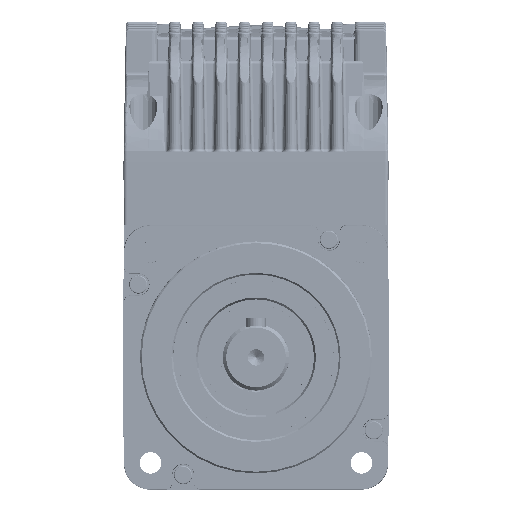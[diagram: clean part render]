
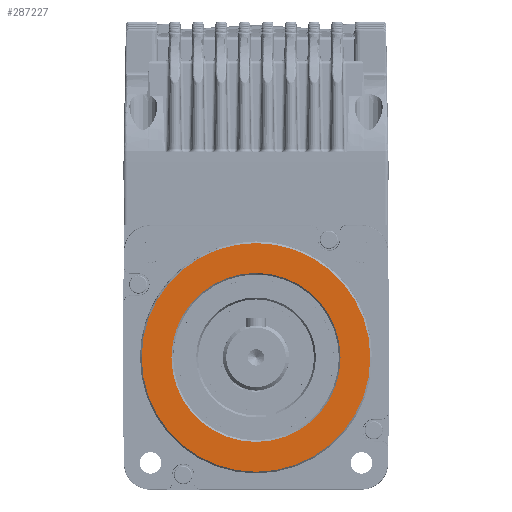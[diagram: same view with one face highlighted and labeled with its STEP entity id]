
A CAD part, front view. The second image highlights one B-rep face of the part: STEP entity #287227.
In plain terms, the highlighted planar face has unit normal (0, -1, 0).
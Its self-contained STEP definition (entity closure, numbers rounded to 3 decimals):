
#287002=AXIS2_PLACEMENT_3D('Circle Axis2P3D',#287000,#287001,$) ;
#287011=AXIS2_PLACEMENT_3D('Circle Axis2P3D',#287009,#287010,$) ;
#287049=AXIS2_PLACEMENT_3D('Circle Axis2P3D',#287047,#287048,$) ;
#287056=AXIS2_PLACEMENT_3D('Circle Axis2P3D',#287054,#287055,$) ;
#287185=AXIS2_PLACEMENT_3D('Plane Axis2P3D',#287182,#287183,#287184) ;
#287189=AXIS2_PLACEMENT_3D('Circle Axis2P3D',#287187,#287188,$) ;
#287198=AXIS2_PLACEMENT_3D('Circle Axis2P3D',#287196,#287197,$) ;
#287205=AXIS2_PLACEMENT_3D('Circle Axis2P3D',#287203,#287204,$) ;
#287212=AXIS2_PLACEMENT_3D('Circle Axis2P3D',#287210,#287211,$) ;
#287000=CARTESIAN_POINT('Axis2P3D Location',(0.,-1.36,0.)) ;
#287004=CARTESIAN_POINT('Vertex',(25.5,-1.36,0.)) ;
#287006=CARTESIAN_POINT('Vertex',(0.,-1.36,-25.5)) ;
#287009=CARTESIAN_POINT('Axis2P3D Location',(0.,-1.36,0.)) ;
#287013=CARTESIAN_POINT('Vertex',(0.,-1.36,25.5)) ;
#287047=CARTESIAN_POINT('Axis2P3D Location',(0.,-1.36,0.)) ;
#287051=CARTESIAN_POINT('Vertex',(-25.5,-1.36,0.)) ;
#287054=CARTESIAN_POINT('Axis2P3D Location',(0.,-1.36,0.)) ;
#287182=CARTESIAN_POINT('Axis2P3D Location',(0.,-1.36,25.)) ;
#287187=CARTESIAN_POINT('Axis2P3D Location',(0.,-1.36,0.)) ;
#287191=CARTESIAN_POINT('Vertex',(34.5,-1.36,0.)) ;
#287193=CARTESIAN_POINT('Vertex',(0.,-1.36,34.5)) ;
#287196=CARTESIAN_POINT('Axis2P3D Location',(0.,-1.36,0.)) ;
#287200=CARTESIAN_POINT('Vertex',(-34.5,-1.36,0.)) ;
#287203=CARTESIAN_POINT('Axis2P3D Location',(0.,-1.36,0.)) ;
#287207=CARTESIAN_POINT('Vertex',(0.,-1.36,-34.5)) ;
#287210=CARTESIAN_POINT('Axis2P3D Location',(0.,-1.36,0.)) ;
#287001=DIRECTION('Axis2P3D Direction',(0.,-1.,0.)) ;
#287010=DIRECTION('Axis2P3D Direction',(0.,-1.,0.)) ;
#287048=DIRECTION('Axis2P3D Direction',(0.,-1.,0.)) ;
#287055=DIRECTION('Axis2P3D Direction',(0.,-1.,0.)) ;
#287183=DIRECTION('Axis2P3D Direction',(0.,-1.,0.)) ;
#287184=DIRECTION('Axis2P3D XDirection',(0.,0.,-1.)) ;
#287188=DIRECTION('Axis2P3D Direction',(0.,-1.,0.)) ;
#287197=DIRECTION('Axis2P3D Direction',(0.,-1.,0.)) ;
#287204=DIRECTION('Axis2P3D Direction',(0.,-1.,0.)) ;
#287211=DIRECTION('Axis2P3D Direction',(0.,-1.,0.)) ;
#287216=ORIENTED_EDGE('',*,*,#287195,.T.) ;
#287217=ORIENTED_EDGE('',*,*,#287202,.T.) ;
#287218=ORIENTED_EDGE('',*,*,#287209,.T.) ;
#287219=ORIENTED_EDGE('',*,*,#287214,.T.) ;
#287222=ORIENTED_EDGE('',*,*,#287008,.T.) ;
#287223=ORIENTED_EDGE('',*,*,#287058,.T.) ;
#287224=ORIENTED_EDGE('',*,*,#287053,.T.) ;
#287225=ORIENTED_EDGE('',*,*,#287015,.T.) ;
#287226=FACE_BOUND('',#287221,.T.) ;
#287227=ADVANCED_FACE('N33278',(#287220,#287226),#287186,.T.) ;
#287003=CIRCLE('generated circle',#287002,25.5) ;
#287012=CIRCLE('generated circle',#287011,25.5) ;
#287050=CIRCLE('generated circle',#287049,25.5) ;
#287057=CIRCLE('generated circle',#287056,25.5) ;
#287190=CIRCLE('generated circle',#287189,34.5) ;
#287199=CIRCLE('generated circle',#287198,34.5) ;
#287206=CIRCLE('generated circle',#287205,34.5) ;
#287213=CIRCLE('generated circle',#287212,34.5) ;
#287008=EDGE_CURVE('',#287005,#287007,#287003,.F.) ;
#287015=EDGE_CURVE('',#287014,#287005,#287012,.F.) ;
#287053=EDGE_CURVE('',#287052,#287014,#287050,.F.) ;
#287058=EDGE_CURVE('',#287007,#287052,#287057,.F.) ;
#287195=EDGE_CURVE('',#287192,#287194,#287190,.T.) ;
#287202=EDGE_CURVE('',#287194,#287201,#287199,.T.) ;
#287209=EDGE_CURVE('',#287201,#287208,#287206,.T.) ;
#287214=EDGE_CURVE('',#287208,#287192,#287213,.T.) ;
#287215=EDGE_LOOP('',(#287216,#287217,#287218,#287219)) ;
#287221=EDGE_LOOP('',(#287222,#287223,#287224,#287225)) ;
#287220=FACE_OUTER_BOUND('',#287215,.T.) ;
#287186=PLANE('Plane',#287185) ;
#287005=VERTEX_POINT('',#287004) ;
#287007=VERTEX_POINT('',#287006) ;
#287014=VERTEX_POINT('',#287013) ;
#287052=VERTEX_POINT('',#287051) ;
#287192=VERTEX_POINT('',#287191) ;
#287194=VERTEX_POINT('',#287193) ;
#287201=VERTEX_POINT('',#287200) ;
#287208=VERTEX_POINT('',#287207) ;
